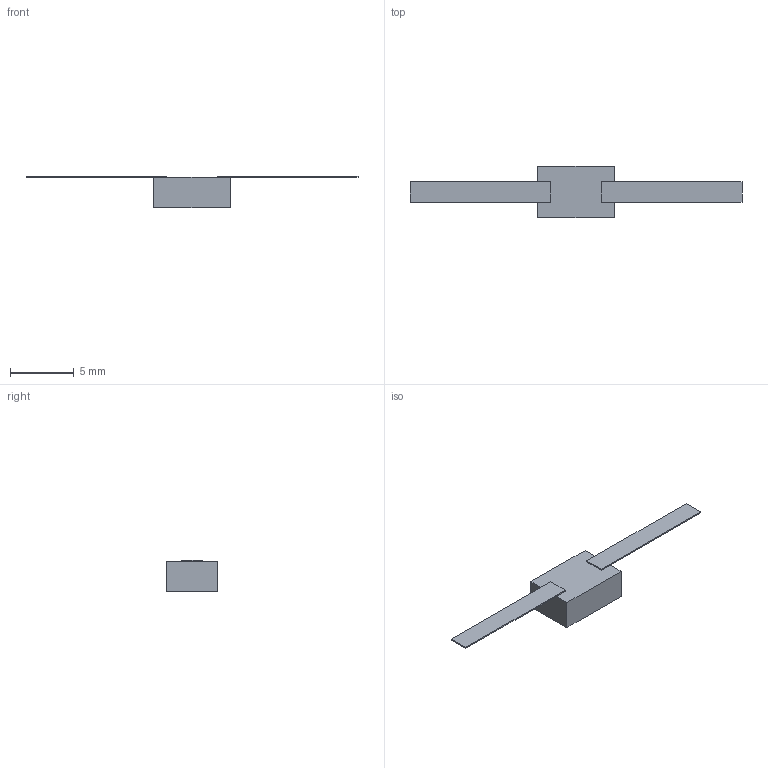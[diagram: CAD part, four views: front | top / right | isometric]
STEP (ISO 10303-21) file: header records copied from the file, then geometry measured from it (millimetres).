
FILE_DESCRIPTION(('STEP AP203'), '1');
FILE_NAME('R1-5-0.5', '', ('UNSPECIFIED'), ('UNSPECIFIED'), 'ASCON STEP Converter 1.6', 'ASCON Math Kernel', '');
FILE_SCHEMA(('CONFIG_CONTROL_DESIGN'));
Length unit declared in the file: millimetre
Bounding box: 26 x 4 x 2.5 mm (x, y, z)
Volume: 61.1 mm3; surface area: 165 mm2
Topology: 1 solids, 1 shells, 18 faces, 44 edges, 28 vertices
Faces by surface type: plane 18
Entity records: 704 total; most frequent: CARTESIAN_POINT 91, ORIENTED_EDGE 88, DIRECTION 82, EDGE_CURVE 44, LINE 44, VECTOR 44, VERTEX_POINT 28, AXIS2_PLACEMENT_3D 19
